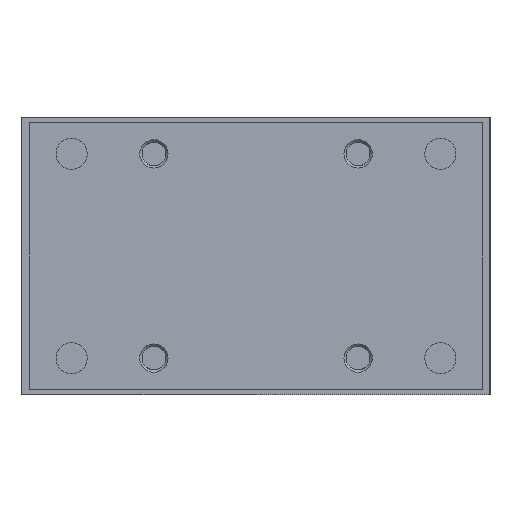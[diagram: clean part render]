
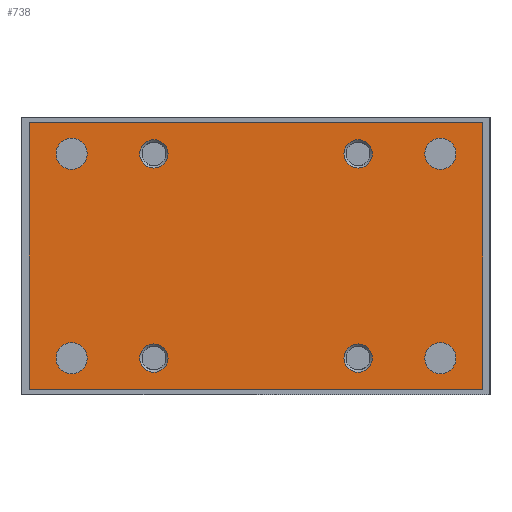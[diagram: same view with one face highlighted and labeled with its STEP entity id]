
A CAD part, left-side view. The second image highlights one B-rep face of the part: STEP entity #738.
In plain terms, the highlighted planar face has unit normal (-1, 0, 0).
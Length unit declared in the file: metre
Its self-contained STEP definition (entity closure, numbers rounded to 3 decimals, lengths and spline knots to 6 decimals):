
#738 = ADVANCED_FACE( '', ( #1667, #1668, #1669, #1670, #1671, #1672, #1673, #1674, #1675 ), #1676, .F. );
#1667 = FACE_BOUND( '', #2625, .T. );
#1668 = FACE_BOUND( '', #2626, .T. );
#1669 = FACE_BOUND( '', #2627, .T. );
#1670 = FACE_BOUND( '', #2628, .T. );
#1671 = FACE_BOUND( '', #2629, .T. );
#1672 = FACE_BOUND( '', #2630, .T. );
#1673 = FACE_BOUND( '', #2631, .T. );
#1674 = FACE_BOUND( '', #2632, .T. );
#1675 = FACE_OUTER_BOUND( '', #2633, .T. );
#1676 = PLANE( '', #2634 );
#2625 = EDGE_LOOP( '', ( #4355 ) );
#2626 = EDGE_LOOP( '', ( #4356 ) );
#2627 = EDGE_LOOP( '', ( #4357 ) );
#2628 = EDGE_LOOP( '', ( #4358 ) );
#2629 = EDGE_LOOP( '', ( #4359 ) );
#2630 = EDGE_LOOP( '', ( #4360 ) );
#2631 = EDGE_LOOP( '', ( #4361 ) );
#2632 = EDGE_LOOP( '', ( #4362 ) );
#2633 = EDGE_LOOP( '', ( #4363, #4364, #4365, #4366 ) );
#2634 = AXIS2_PLACEMENT_3D( '', #4367, #4368, #4369 );
#4355 = ORIENTED_EDGE( '', *, *, #4639, .T. );
#4356 = ORIENTED_EDGE( '', *, *, #4724, .T. );
#4357 = ORIENTED_EDGE( '', *, *, #4734, .T. );
#4358 = ORIENTED_EDGE( '', *, *, #4962, .T. );
#4359 = ORIENTED_EDGE( '', *, *, #4895, .T. );
#4360 = ORIENTED_EDGE( '', *, *, #4992, .F. );
#4361 = ORIENTED_EDGE( '', *, *, #4709, .F. );
#4362 = ORIENTED_EDGE( '', *, *, #4745, .T. );
#4363 = ORIENTED_EDGE( '', *, *, #5115, .T. );
#4364 = ORIENTED_EDGE( '', *, *, #5049, .T. );
#4365 = ORIENTED_EDGE( '', *, *, #5001, .T. );
#4366 = ORIENTED_EDGE( '', *, *, #4616, .T. );
#4367 = CARTESIAN_POINT( '', ( -0.107, -0.08, -0.096 ) );
#4368 = DIRECTION( '', ( 1., 0., 0. ) );
#4369 = DIRECTION( '', ( 0., 0., -1. ) );
#4616 = EDGE_CURVE( '', #5378, #5376, #5379, .T. );
#4639 = EDGE_CURVE( '', #5415, #5415, #5416, .T. );
#4709 = EDGE_CURVE( '', #5525, #5525, #5526, .T. );
#4724 = EDGE_CURVE( '', #5545, #5545, #5546, .T. );
#4734 = EDGE_CURVE( '', #5560, #5560, #5561, .T. );
#4745 = EDGE_CURVE( '', #5577, #5577, #5578, .T. );
#4895 = EDGE_CURVE( '', #5797, #5797, #5798, .T. );
#4962 = EDGE_CURVE( '', #5892, #5892, #5893, .T. );
#4992 = EDGE_CURVE( '', #5928, #5928, #5929, .T. );
#5001 = EDGE_CURVE( '', #5939, #5378, #5940, .T. );
#5049 = EDGE_CURVE( '', #6000, #5939, #6001, .T. );
#5115 = EDGE_CURVE( '', #5376, #6000, #6070, .T. );
#5376 = VERTEX_POINT( '', #6414 );
#5378 = VERTEX_POINT( '', #6417 );
#5379 = LINE( '', #6418, #6419 );
#5415 = VERTEX_POINT( '', #6460 );
#5416 = CIRCLE( '', #6461, 0.0055 );
#5525 = VERTEX_POINT( '', #6593 );
#5526 = CIRCLE( '', #6594, 0.005 );
#5545 = VERTEX_POINT( '', #6616 );
#5546 = CIRCLE( '', #6617, 0.0055 );
#5560 = VERTEX_POINT( '', #6635 );
#5561 = CIRCLE( '', #6636, 0.0055 );
#5577 = VERTEX_POINT( '', #6656 );
#5578 = CIRCLE( '', #6657, 0.005 );
#5797 = VERTEX_POINT( '', #7022 );
#5798 = CIRCLE( '', #7023, 0.005 );
#5892 = VERTEX_POINT( '', #7200 );
#5893 = CIRCLE( '', #7201, 0.0055 );
#5928 = VERTEX_POINT( '', #7241 );
#5929 = CIRCLE( '', #7242, 0.005 );
#5939 = VERTEX_POINT( '', #7255 );
#5940 = LINE( '', #7256, #7257 );
#6000 = VERTEX_POINT( '', #7396 );
#6001 = LINE( '', #7397, #7398 );
#6070 = LINE( '', #7476, #7477 );
#6414 = CARTESIAN_POINT( '', ( -0.107, -0.08, -0.096 ) );
#6417 = CARTESIAN_POINT( '', ( -0.107, 0.08, -0.096 ) );
#6418 = CARTESIAN_POINT( '', ( -0.107, 0.08, -0.096 ) );
#6419 = VECTOR( '', #7720, 1. );
#6460 = CARTESIAN_POINT( '', ( -0.107, -0.0595, -0.085 ) );
#6461 = AXIS2_PLACEMENT_3D( '', #7756, #7757, #7758 );
#6593 = CARTESIAN_POINT( '', ( -0.107, -0.036, -0.008 ) );
#6594 = AXIS2_PLACEMENT_3D( '', #7851, #7852, #7853 );
#6616 = CARTESIAN_POINT( '', ( -0.107, 0.0705, -0.085 ) );
#6617 = AXIS2_PLACEMENT_3D( '', #7872, #7873, #7874 );
#6635 = CARTESIAN_POINT( '', ( -0.107, -0.0595, -0.013 ) );
#6636 = AXIS2_PLACEMENT_3D( '', #7882, #7883, #7884 );
#6656 = CARTESIAN_POINT( '', ( -0.107, 0.036, -0.008 ) );
#6657 = AXIS2_PLACEMENT_3D( '', #7901, #7902, #7903 );
#7022 = CARTESIAN_POINT( '', ( -0.107, -0.036, -0.09 ) );
#7023 = AXIS2_PLACEMENT_3D( '', #8089, #8090, #8091 );
#7200 = CARTESIAN_POINT( '', ( -0.107, 0.0705, -0.013 ) );
#7201 = AXIS2_PLACEMENT_3D( '', #8172, #8173, #8174 );
#7241 = CARTESIAN_POINT( '', ( -0.107, 0.036, -0.09 ) );
#7242 = AXIS2_PLACEMENT_3D( '', #8201, #8202, #8203 );
#7255 = CARTESIAN_POINT( '', ( -0.107, 0.08, -0.002 ) );
#7256 = CARTESIAN_POINT( '', ( -0.107, 0.08, -0.002 ) );
#7257 = VECTOR( '', #8207, 1. );
#7396 = CARTESIAN_POINT( '', ( -0.107, -0.08, -0.002 ) );
#7397 = CARTESIAN_POINT( '', ( -0.107, -0.08, -0.002 ) );
#7398 = VECTOR( '', #8245, 1. );
#7476 = CARTESIAN_POINT( '', ( -0.107, -0.08, -0.096 ) );
#7477 = VECTOR( '', #8276, 1. );
#7720 = DIRECTION( '', ( 0., -1., 0. ) );
#7756 = CARTESIAN_POINT( '', ( -0.107, -0.065, -0.085 ) );
#7757 = DIRECTION( '', ( 1., 0., 0. ) );
#7758 = DIRECTION( '', ( 0., 1., 0. ) );
#7851 = CARTESIAN_POINT( '', ( -0.107, -0.036, -0.013 ) );
#7852 = DIRECTION( '', ( -1., 0., 0. ) );
#7853 = DIRECTION( '', ( 0., 0., 1. ) );
#7872 = CARTESIAN_POINT( '', ( -0.107, 0.065, -0.085 ) );
#7873 = DIRECTION( '', ( 1., 0., 0. ) );
#7874 = DIRECTION( '', ( 0., 1., 0. ) );
#7882 = CARTESIAN_POINT( '', ( -0.107, -0.065, -0.013 ) );
#7883 = DIRECTION( '', ( 1., 0., 0. ) );
#7884 = DIRECTION( '', ( 0., 1., 0. ) );
#7901 = CARTESIAN_POINT( '', ( -0.107, 0.036, -0.013 ) );
#7902 = DIRECTION( '', ( 1., 0., 0. ) );
#7903 = DIRECTION( '', ( 0., 0., 1. ) );
#8089 = CARTESIAN_POINT( '', ( -0.107, -0.036, -0.085 ) );
#8090 = DIRECTION( '', ( 1., 0., 0. ) );
#8091 = DIRECTION( '', ( 0., 0., -1. ) );
#8172 = CARTESIAN_POINT( '', ( -0.107, 0.065, -0.013 ) );
#8173 = DIRECTION( '', ( 1., 0., 0. ) );
#8174 = DIRECTION( '', ( 0., 1., 0. ) );
#8201 = CARTESIAN_POINT( '', ( -0.107, 0.036, -0.085 ) );
#8202 = DIRECTION( '', ( -1., 0., 0. ) );
#8203 = DIRECTION( '', ( 0., 0., -1. ) );
#8207 = DIRECTION( '', ( 0., 0., -1. ) );
#8245 = DIRECTION( '', ( 0., 1., 0. ) );
#8276 = DIRECTION( '', ( 0., 0., 1. ) );
